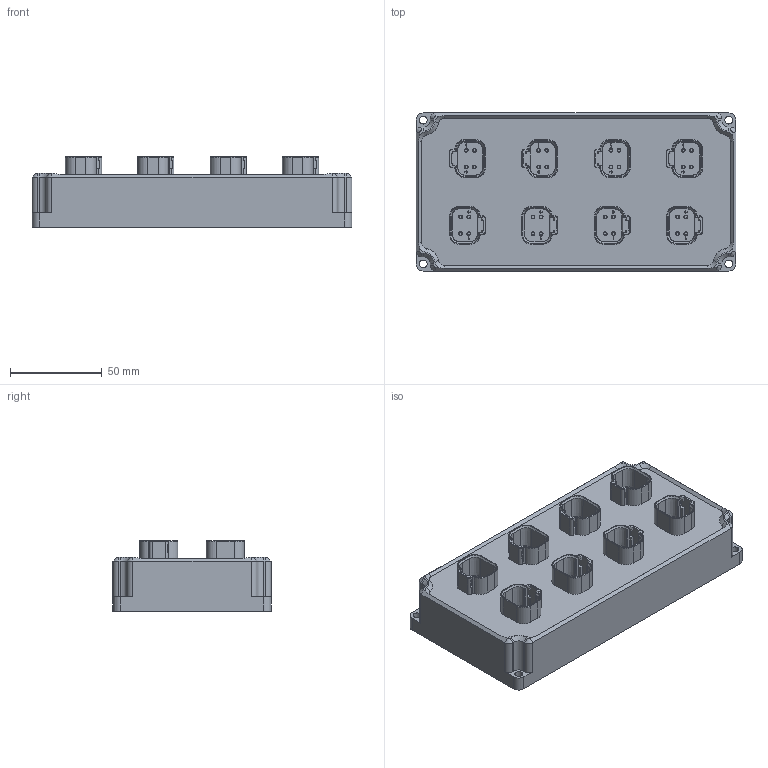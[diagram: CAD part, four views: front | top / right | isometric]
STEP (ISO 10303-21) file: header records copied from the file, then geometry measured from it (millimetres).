
FILE_DESCRIPTION (( 'STEP AP214' ), '1' );
FILE_NAME ('APDB-1I7OD-2A-004.STEP', '2019-08-14T16:18:30', ( '' ), ( '' ), 'SwSTEP 2.0', 'SolidWorks 2014', '' );
FILE_SCHEMA (( 'AUTOMOTIVE_DESIGN' ));
Length unit declared in the file: millimetre
Products named in the file (2): APDB-1I7OD-2A-004
Bounding box: 174 x 86 x 38.45 mm (x, y, z)
Volume: 271042 mm3; surface area: 162996.4 mm2
Topology: 12 solids, 12 shells, 3307 faces, 8500 edges, 5296 vertices
Faces by surface type: cylinder 1312, plane 1099, bspline 736, cone 152, torus 8
Entity records: 161519 total; most frequent: CARTESIAN_POINT 48017, ORIENTED_EDGE 16792, DIRECTION 15718, EDGE_CURVE 8396, AXIS2_PLACEMENT_3D 5837, VERTEX_POINT 5296, LINE 4044, VECTOR 4044
